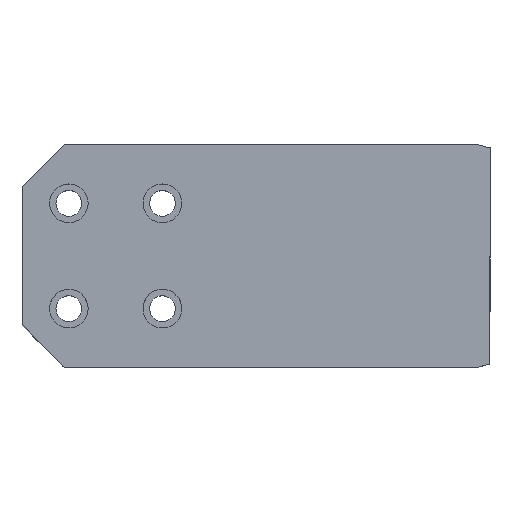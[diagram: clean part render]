
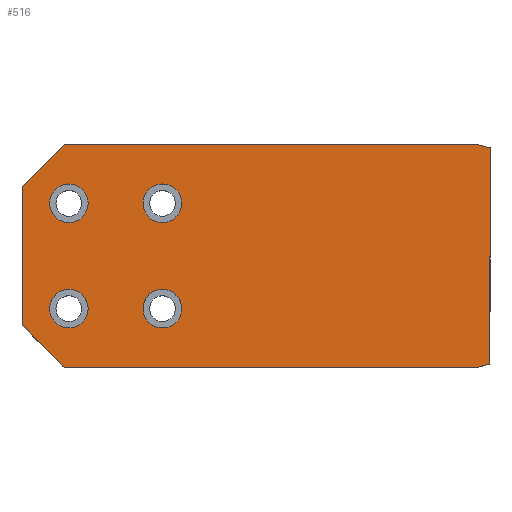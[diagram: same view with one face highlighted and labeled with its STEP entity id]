
A CAD part, top view. The second image highlights one B-rep face of the part: STEP entity #516.
In plain terms, the highlighted planar face has unit normal (0, 0, 1).
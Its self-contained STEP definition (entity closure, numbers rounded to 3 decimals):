
#14=FACE_BOUND('',#88,.T.);
#15=FACE_BOUND('',#89,.T.);
#16=FACE_BOUND('',#90,.T.);
#17=FACE_BOUND('',#91,.T.);
#28=PLANE('',#568);
#58=FACE_OUTER_BOUND('',#87,.T.);
#87=EDGE_LOOP('',(#365,#366,#367,#368,#369,#370,#371,#372));
#88=EDGE_LOOP('',(#373));
#89=EDGE_LOOP('',(#374));
#90=EDGE_LOOP('',(#375));
#91=EDGE_LOOP('',(#376));
#128=LINE('',#771,#175);
#134=LINE('',#783,#181);
#135=LINE('',#785,#182);
#136=LINE('',#787,#183);
#137=LINE('',#789,#184);
#138=LINE('',#791,#185);
#139=LINE('',#793,#186);
#140=LINE('',#794,#187);
#175=VECTOR('',#628,10.);
#181=VECTOR('',#636,10.);
#182=VECTOR('',#637,10.);
#183=VECTOR('',#638,10.);
#184=VECTOR('',#639,10.);
#185=VECTOR('',#640,10.);
#186=VECTOR('',#641,10.);
#187=VECTOR('',#642,10.);
#222=CIRCLE('',#569,16.5);
#223=CIRCLE('',#570,16.5);
#224=CIRCLE('',#571,16.5);
#225=CIRCLE('',#572,16.5);
#242=VERTEX_POINT('',#769);
#243=VERTEX_POINT('',#770);
#248=VERTEX_POINT('',#782);
#249=VERTEX_POINT('',#784);
#250=VERTEX_POINT('',#786);
#251=VERTEX_POINT('',#788);
#252=VERTEX_POINT('',#790);
#253=VERTEX_POINT('',#792);
#254=VERTEX_POINT('',#795);
#255=VERTEX_POINT('',#797);
#256=VERTEX_POINT('',#799);
#257=VERTEX_POINT('',#801);
#288=EDGE_CURVE('',#242,#243,#128,.T.);
#294=EDGE_CURVE('',#242,#248,#134,.T.);
#295=EDGE_CURVE('',#249,#248,#135,.T.);
#296=EDGE_CURVE('',#249,#250,#136,.T.);
#297=EDGE_CURVE('',#251,#250,#137,.T.);
#298=EDGE_CURVE('',#251,#252,#138,.T.);
#299=EDGE_CURVE('',#253,#252,#139,.T.);
#300=EDGE_CURVE('',#253,#243,#140,.T.);
#301=EDGE_CURVE('',#254,#254,#222,.T.);
#302=EDGE_CURVE('',#255,#255,#223,.T.);
#303=EDGE_CURVE('',#256,#256,#224,.T.);
#304=EDGE_CURVE('',#257,#257,#225,.T.);
#365=ORIENTED_EDGE('',*,*,#288,.F.);
#366=ORIENTED_EDGE('',*,*,#294,.T.);
#367=ORIENTED_EDGE('',*,*,#295,.F.);
#368=ORIENTED_EDGE('',*,*,#296,.T.);
#369=ORIENTED_EDGE('',*,*,#297,.F.);
#370=ORIENTED_EDGE('',*,*,#298,.T.);
#371=ORIENTED_EDGE('',*,*,#299,.F.);
#372=ORIENTED_EDGE('',*,*,#300,.T.);
#373=ORIENTED_EDGE('',*,*,#301,.T.);
#374=ORIENTED_EDGE('',*,*,#302,.T.);
#375=ORIENTED_EDGE('',*,*,#303,.T.);
#376=ORIENTED_EDGE('',*,*,#304,.T.);
#516=ADVANCED_FACE('',(#58,#14,#15,#16,#17),#28,.T.);
#568=AXIS2_PLACEMENT_3D('',#781,#634,#635);
#569=AXIS2_PLACEMENT_3D('',#796,#643,#644);
#570=AXIS2_PLACEMENT_3D('',#798,#645,#646);
#571=AXIS2_PLACEMENT_3D('',#800,#647,#648);
#572=AXIS2_PLACEMENT_3D('',#802,#649,#650);
#628=DIRECTION('',(0.707,0.707,0.));
#634=DIRECTION('center_axis',(0.,0.,1.));
#635=DIRECTION('ref_axis',(1.,0.,0.));
#636=DIRECTION('',(0.,-1.,0.));
#637=DIRECTION('',(-0.707,0.707,0.));
#638=DIRECTION('',(1.,0.,0.));
#639=DIRECTION('',(-0.966,-0.259,0.));
#640=DIRECTION('',(0.,1.,0.));
#641=DIRECTION('',(0.966,-0.259,0.));
#642=DIRECTION('',(-1.,0.,0.));
#643=DIRECTION('center_axis',(0.,0.,-1.));
#644=DIRECTION('ref_axis',(1.,0.,0.));
#645=DIRECTION('center_axis',(0.,0.,-1.));
#646=DIRECTION('ref_axis',(1.,0.,0.));
#647=DIRECTION('center_axis',(0.,0.,-1.));
#648=DIRECTION('ref_axis',(1.,0.,0.));
#649=DIRECTION('center_axis',(0.,0.,-1.));
#650=DIRECTION('ref_axis',(1.,0.,0.));
#769=CARTESIAN_POINT('',(-400.,154.,56.));
#770=CARTESIAN_POINT('',(-364.,190.,56.));
#771=CARTESIAN_POINT('',(-355.75,198.25,56.));
#781=CARTESIAN_POINT('Origin',(-200.,95.,56.));
#782=CARTESIAN_POINT('',(-400.,36.,56.));
#783=CARTESIAN_POINT('',(-400.,190.,56.));
#784=CARTESIAN_POINT('',(-364.,0.,56.));
#785=CARTESIAN_POINT('',(-355.75,-8.25,56.));
#786=CARTESIAN_POINT('',(-10.,0.,56.));
#787=CARTESIAN_POINT('',(-400.,0.,56.));
#788=CARTESIAN_POINT('',(0.,2.679,56.));
#789=CARTESIAN_POINT('',(-84.261,-19.898,56.));
#790=CARTESIAN_POINT('',(0.,187.321,56.));
#791=CARTESIAN_POINT('',(0.,0.,56.));
#792=CARTESIAN_POINT('',(-10.,190.,56.));
#793=CARTESIAN_POINT('',(-84.261,209.898,56.));
#794=CARTESIAN_POINT('',(0.,190.,56.));
#795=CARTESIAN_POINT('',(-376.5,140.,56.));
#796=CARTESIAN_POINT('Origin',(-360.,140.,56.));
#797=CARTESIAN_POINT('',(-296.5,50.,56.));
#798=CARTESIAN_POINT('Origin',(-280.,50.,56.));
#799=CARTESIAN_POINT('',(-296.5,140.,56.));
#800=CARTESIAN_POINT('Origin',(-280.,140.,56.));
#801=CARTESIAN_POINT('',(-376.5,50.,56.));
#802=CARTESIAN_POINT('Origin',(-360.,50.,56.));
